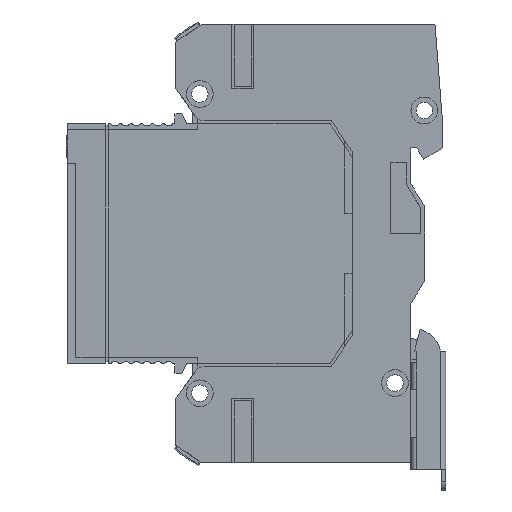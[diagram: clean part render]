
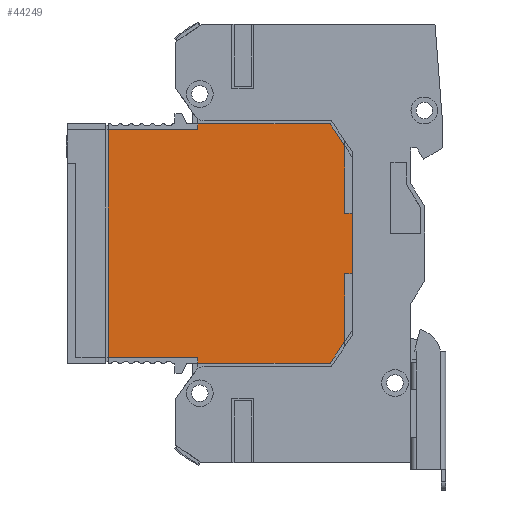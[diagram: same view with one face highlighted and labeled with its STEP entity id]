
A CAD part, left-side view. The second image highlights one B-rep face of the part: STEP entity #44249.
In plain terms, the highlighted planar face has unit normal (-1, 0, 0) as drawn and (0, -1, 0) by its records, which use the part's own axes.
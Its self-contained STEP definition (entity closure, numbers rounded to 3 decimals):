
#40 = DIRECTION ( 'NONE',  ( 0.835, 0., 0.55 ) ) ;
#405 = VERTEX_POINT ( 'NONE', #55073 ) ;
#775 = CARTESIAN_POINT ( 'NONE',  ( 22.4, 0., -2.35 ) ) ;
#1530 = DIRECTION ( 'NONE',  ( 1., 0., 0. ) ) ;
#2009 = DIRECTION ( 'NONE',  ( 0., 0., -1. ) ) ;
#2185 = VECTOR ( 'NONE', #2009, 1000. ) ;
#2730 = VERTEX_POINT ( 'NONE', #20898 ) ;
#3044 = ORIENTED_EDGE ( 'NONE', *, *, #37426, .F. ) ;
#3264 = ORIENTED_EDGE ( 'NONE', *, *, #39464, .T. ) ;
#3626 = VECTOR ( 'NONE', #47459, 1000. ) ;
#4698 = LINE ( 'NONE', #50491, #20468 ) ;
#5510 = VERTEX_POINT ( 'NONE', #12619 ) ;
#7064 = LINE ( 'NONE', #8284, #14649 ) ;
#7107 = LINE ( 'NONE', #14251, #44921 ) ;
#7741 = LINE ( 'NONE', #45810, #2185 ) ;
#7806 = CARTESIAN_POINT ( 'NONE',  ( 21.3, 0., -19.05 ) ) ;
#7821 = ORIENTED_EDGE ( 'NONE', *, *, #38635, .T. ) ;
#7912 = CARTESIAN_POINT ( 'NONE',  ( -5.65, 0., 26.55 ) ) ;
#8178 = LINE ( 'NONE', #28210, #9561 ) ;
#8284 = CARTESIAN_POINT ( 'NONE',  ( 22.4, 0., 22.45 ) ) ;
#8501 = CARTESIAN_POINT ( 'NONE',  ( -22.4, 0., -2.35 ) ) ;
#8941 = CARTESIAN_POINT ( 'NONE',  ( -22.4, 0., 22.45 ) ) ;
#9552 = CARTESIAN_POINT ( 'NONE',  ( -21.3, 0., -2.35 ) ) ;
#9561 = VECTOR ( 'NONE', #27849, 1000. ) ;
#9695 = VERTEX_POINT ( 'NONE', #17950 ) ;
#9817 = DIRECTION ( 'NONE',  ( 1., 0., 0. ) ) ;
#10742 = EDGE_CURVE ( 'NONE', #50198, #44818, #29508, .T. ) ;
#10817 = DIRECTION ( 'NONE',  ( 0., 0., -1. ) ) ;
#11688 = EDGE_CURVE ( 'NONE', #405, #2730, #51443, .T. ) ;
#12367 = ORIENTED_EDGE ( 'NONE', *, *, #24629, .F. ) ;
#12619 = CARTESIAN_POINT ( 'NONE',  ( -18.3, 0., 25.15 ) ) ;
#12670 = DIRECTION ( 'NONE',  ( 0., 0., 1. ) ) ;
#12900 = DIRECTION ( 'NONE',  ( 0.835, 0., -0.55 ) ) ;
#13329 = LINE ( 'NONE', #43101, #23557 ) ;
#14251 = CARTESIAN_POINT ( 'NONE',  ( -21.3, 0., -2.35 ) ) ;
#14649 = VECTOR ( 'NONE', #12900, 1000. ) ;
#15040 = VECTOR ( 'NONE', #9817, 1000. ) ;
#15732 = ORIENTED_EDGE ( 'NONE', *, *, #49705, .T. ) ;
#16704 = DIRECTION ( 'NONE',  ( 0., 1., 0. ) ) ;
#16758 = EDGE_CURVE ( 'NONE', #5510, #29230, #13329, .T. ) ;
#17168 = ORIENTED_EDGE ( 'NONE', *, *, #27421, .F. ) ;
#17910 = ORIENTED_EDGE ( 'NONE', *, *, #10742, .F. ) ;
#17950 = CARTESIAN_POINT ( 'NONE',  ( -22.4, 0., -2.35 ) ) ;
#19759 = CARTESIAN_POINT ( 'NONE',  ( 22.4, 0., -2.35 ) ) ;
#20468 = VECTOR ( 'NONE', #37359, 1000. ) ;
#20898 = CARTESIAN_POINT ( 'NONE',  ( 18.3, 0., 25.15 ) ) ;
#21129 = VERTEX_POINT ( 'NONE', #775 ) ;
#21259 = ORIENTED_EDGE ( 'NONE', *, *, #37337, .T. ) ;
#22329 = VECTOR ( 'NONE', #40, 1000. ) ;
#23557 = VECTOR ( 'NONE', #38842, 1000. ) ;
#24268 = EDGE_LOOP ( 'NONE', ( #12367, #17910, #37390, #36283, #46546, #3044, #49513, #15732, #21259, #3264, #43070, #17168, #40494, #7821 ) ) ;
#24629 = EDGE_CURVE ( 'NONE', #44818, #33163, #8178, .T. ) ;
#24939 = EDGE_CURVE ( 'NONE', #9695, #42345, #42795, .T. ) ;
#25487 = DIRECTION ( 'NONE',  ( 0., 0., 1. ) ) ;
#27385 = CARTESIAN_POINT ( 'NONE',  ( -21.3, 0., -19.05 ) ) ;
#27421 = EDGE_CURVE ( 'NONE', #42345, #5510, #34629, .T. ) ;
#27597 = CARTESIAN_POINT ( 'NONE',  ( -21.3, 0., 25.15 ) ) ;
#27849 = DIRECTION ( 'NONE',  ( 0., 0., 1. ) ) ;
#28210 = CARTESIAN_POINT ( 'NONE',  ( -21.3, 0., -25.15 ) ) ;
#28598 = VECTOR ( 'NONE', #10817, 1000. ) ;
#29006 = EDGE_CURVE ( 'NONE', #44435, #21129, #4698, .T. ) ;
#29230 = VERTEX_POINT ( 'NONE', #56797 ) ;
#29508 = LINE ( 'NONE', #27385, #50195 ) ;
#30060 = VERTEX_POINT ( 'NONE', #37052 ) ;
#30486 = CARTESIAN_POINT ( 'NONE',  ( 0., 0., 0. ) ) ;
#30756 = CARTESIAN_POINT ( 'NONE',  ( 22.4, 0., 22.45 ) ) ;
#31248 = DIRECTION ( 'NONE',  ( 0., 0., -1. ) ) ;
#31823 = DIRECTION ( 'NONE',  ( -1., 0., 0. ) ) ;
#31993 = LINE ( 'NONE', #57024, #51907 ) ;
#33163 = VERTEX_POINT ( 'NONE', #9552 ) ;
#33292 = CARTESIAN_POINT ( 'NONE',  ( 5.65, 0., 26.55 ) ) ;
#33990 = EDGE_CURVE ( 'NONE', #44435, #50198, #31993, .T. ) ;
#34629 = LINE ( 'NONE', #8941, #22329 ) ;
#35824 = CARTESIAN_POINT ( 'NONE',  ( -21.3, 0., -19.05 ) ) ;
#36283 = ORIENTED_EDGE ( 'NONE', *, *, #29006, .T. ) ;
#37052 = CARTESIAN_POINT ( 'NONE',  ( -5.65, 0., 26.55 ) ) ;
#37337 = EDGE_CURVE ( 'NONE', #48356, #30060, #40021, .T. ) ;
#37359 = DIRECTION ( 'NONE',  ( 1., 0., 0. ) ) ;
#37390 = ORIENTED_EDGE ( 'NONE', *, *, #33990, .F. ) ;
#37426 = EDGE_CURVE ( 'NONE', #2730, #45392, #7064, .T. ) ;
#38635 = EDGE_CURVE ( 'NONE', #9695, #33163, #7107, .T. ) ;
#38842 = DIRECTION ( 'NONE',  ( 1., 0., 0. ) ) ;
#39464 = EDGE_CURVE ( 'NONE', #30060, #29230, #7741, .T. ) ;
#40021 = LINE ( 'NONE', #7912, #3626 ) ;
#40494 = ORIENTED_EDGE ( 'NONE', *, *, #24939, .F. ) ;
#42345 = VERTEX_POINT ( 'NONE', #56257 ) ;
#42795 = LINE ( 'NONE', #8501, #45615 ) ;
#43070 = ORIENTED_EDGE ( 'NONE', *, *, #16758, .F. ) ;
#43101 = CARTESIAN_POINT ( 'NONE',  ( -21.3, 0., 25.15 ) ) ;
#43268 = AXIS2_PLACEMENT_3D ( 'NONE', #30486, #16704, #25487 ) ;
#43738 = PLANE ( 'NONE',  #43268 ) ;
#44249 = ADVANCED_FACE ( 'NONE', ( #52718 ), #43738, .F. ) ;
#44435 = VERTEX_POINT ( 'NONE', #44737 ) ;
#44737 = CARTESIAN_POINT ( 'NONE',  ( 21.3, 0., -2.35 ) ) ;
#44818 = VERTEX_POINT ( 'NONE', #35824 ) ;
#44921 = VECTOR ( 'NONE', #1530, 1000. ) ;
#45392 = VERTEX_POINT ( 'NONE', #30756 ) ;
#45615 = VECTOR ( 'NONE', #52459, 1000. ) ;
#45810 = CARTESIAN_POINT ( 'NONE',  ( -5.65, 0., 25.15 ) ) ;
#46546 = ORIENTED_EDGE ( 'NONE', *, *, #54609, .F. ) ;
#47459 = DIRECTION ( 'NONE',  ( -1., 0., 0. ) ) ;
#47793 = CARTESIAN_POINT ( 'NONE',  ( 5.65, 0., 25.15 ) ) ;
#48356 = VERTEX_POINT ( 'NONE', #33292 ) ;
#48489 = LINE ( 'NONE', #47793, #54681 ) ;
#49513 = ORIENTED_EDGE ( 'NONE', *, *, #11688, .F. ) ;
#49705 = EDGE_CURVE ( 'NONE', #405, #48356, #48489, .T. ) ;
#50195 = VECTOR ( 'NONE', #31823, 1000. ) ;
#50198 = VERTEX_POINT ( 'NONE', #7806 ) ;
#50491 = CARTESIAN_POINT ( 'NONE',  ( 21.3, 0., -2.35 ) ) ;
#51443 = LINE ( 'NONE', #27597, #15040 ) ;
#51907 = VECTOR ( 'NONE', #31248, 1000. ) ;
#52459 = DIRECTION ( 'NONE',  ( 0., 0., 1. ) ) ;
#52703 = LINE ( 'NONE', #19759, #28598 ) ;
#52718 = FACE_OUTER_BOUND ( 'NONE', #24268, .T. ) ;
#54609 = EDGE_CURVE ( 'NONE', #45392, #21129, #52703, .T. ) ;
#54681 = VECTOR ( 'NONE', #12670, 1000. ) ;
#55073 = CARTESIAN_POINT ( 'NONE',  ( 5.65, 0., 25.15 ) ) ;
#56257 = CARTESIAN_POINT ( 'NONE',  ( -22.4, 0., 22.45 ) ) ;
#56797 = CARTESIAN_POINT ( 'NONE',  ( -5.65, 0., 25.15 ) ) ;
#57024 = CARTESIAN_POINT ( 'NONE',  ( 21.3, 0., -25.15 ) ) ;
